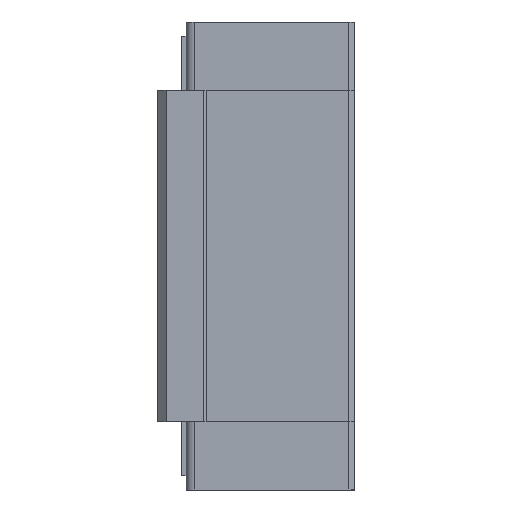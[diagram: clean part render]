
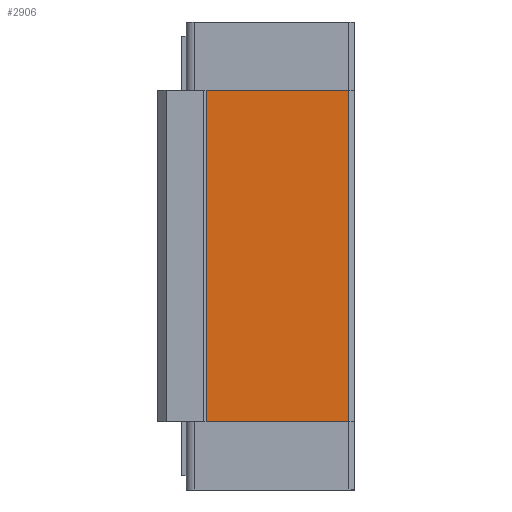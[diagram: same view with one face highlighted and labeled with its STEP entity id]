
A CAD part, left-side view. The second image highlights one B-rep face of the part: STEP entity #2906.
In plain terms, the highlighted planar face has unit normal (-1, 0, 0).
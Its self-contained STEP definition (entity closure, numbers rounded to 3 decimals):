
#92 = DIRECTION ( 'NONE',  ( 0., 0., -1. ) ) ;
#93 = DIRECTION ( 'NONE',  ( 1., 0., 0. ) ) ;
#100 = EDGE_CURVE ( 'NONE', #833, #8970, #1294, .T. ) ;
#102 = PLANE ( 'NONE',  #182 ) ;
#182 = AXIS2_PLACEMENT_3D ( 'NONE', #210, #93, #92 ) ;
#210 = CARTESIAN_POINT ( 'NONE',  ( -23.5, 5.5, -38.5 ) ) ;
#588 = DIRECTION ( 'NONE',  ( 0., 0., -1. ) ) ;
#607 = CARTESIAN_POINT ( 'NONE',  ( -23.5, 6.5, -38.5 ) ) ;
#818 = DIRECTION ( 'NONE',  ( 0., 0., 1. ) ) ;
#833 = VERTEX_POINT ( 'NONE', #1234 ) ;
#1234 = CARTESIAN_POINT ( 'NONE',  ( -23.5, 31.5, 29. ) ) ;
#1285 = VECTOR ( 'NONE', #5085, 1000. ) ;
#1294 = LINE ( 'NONE', #5125, #1285 ) ;
#1340 = CARTESIAN_POINT ( 'NONE',  ( -23.5, 31.5, -38.5 ) ) ;
#1362 = FACE_OUTER_BOUND ( 'NONE', #6091, .T. ) ;
#2122 = ORIENTED_EDGE ( 'NONE', *, *, #2788, .F. ) ;
#2167 = VECTOR ( 'NONE', #818, 1000. ) ;
#2248 = LINE ( 'NONE', #1340, #2167 ) ;
#2754 = CARTESIAN_POINT ( 'NONE',  ( -23.5, 6.5, 29. ) ) ;
#2777 = VECTOR ( 'NONE', #6927, 1000. ) ;
#2788 = EDGE_CURVE ( 'NONE', #8970, #3117, #4322, .T. ) ;
#2906 = ADVANCED_FACE ( 'NONE', ( #1362 ), #102, .F. ) ;
#3095 = LINE ( 'NONE', #6271, #2777 ) ;
#3117 = VERTEX_POINT ( 'NONE', #6019 ) ;
#3180 = VERTEX_POINT ( 'NONE', #8148 ) ;
#4264 = VECTOR ( 'NONE', #588, 1000. ) ;
#4322 = LINE ( 'NONE', #607, #4264 ) ;
#4323 = ORIENTED_EDGE ( 'NONE', *, *, #100, .F. ) ;
#4871 = ORIENTED_EDGE ( 'NONE', *, *, #8770, .T. ) ;
#5085 = DIRECTION ( 'NONE',  ( 0., -1., 0. ) ) ;
#5125 = CARTESIAN_POINT ( 'NONE',  ( -23.5, 0., 29. ) ) ;
#6019 = CARTESIAN_POINT ( 'NONE',  ( -23.5, 6.5, -29. ) ) ;
#6091 = EDGE_LOOP ( 'NONE', ( #4323, #8833, #4871, #2122 ) ) ;
#6271 = CARTESIAN_POINT ( 'NONE',  ( -23.5, 0., -29. ) ) ;
#6927 = DIRECTION ( 'NONE',  ( 0., -1., 0. ) ) ;
#7512 = EDGE_CURVE ( 'NONE', #3180, #833, #2248, .T. ) ;
#8148 = CARTESIAN_POINT ( 'NONE',  ( -23.5, 31.5, -29. ) ) ;
#8770 = EDGE_CURVE ( 'NONE', #3180, #3117, #3095, .T. ) ;
#8833 = ORIENTED_EDGE ( 'NONE', *, *, #7512, .F. ) ;
#8970 = VERTEX_POINT ( 'NONE', #2754 ) ;
